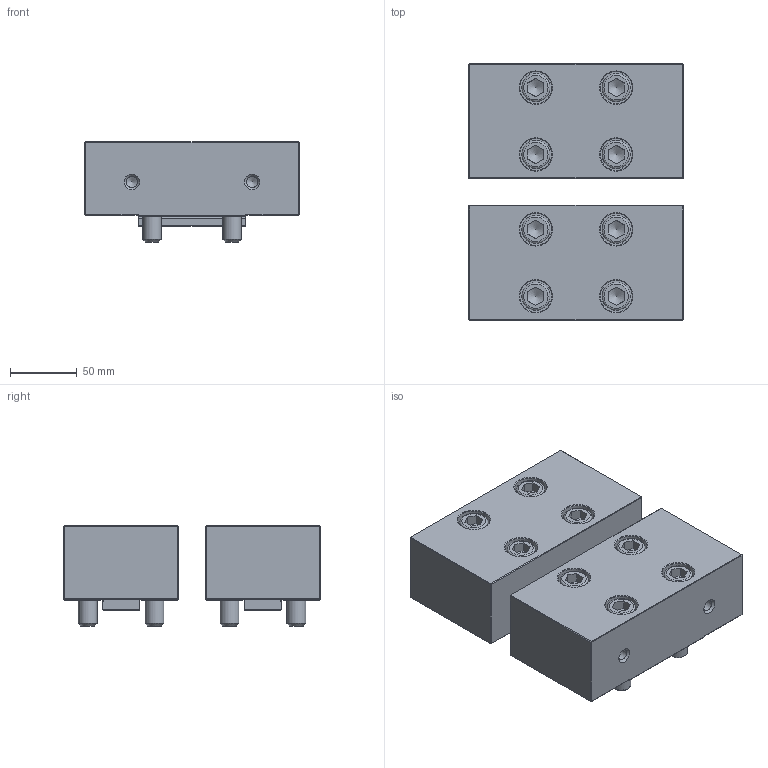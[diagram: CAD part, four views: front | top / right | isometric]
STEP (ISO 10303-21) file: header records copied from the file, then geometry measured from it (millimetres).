
FILE_DESCRIPTION(('STEP AP214'), '1');
FILE_NAME('BB.VS.160.22.040', '', ('UNSPECIFIED'), ('UNSPECIFIED'), 'C3D Converter', 'C3D Toolkit', '');
FILE_SCHEMA(('AUTOMOTIVE_DESIGN { 1 0 10303 214 3 1 1}'));
Length unit declared in the file: millimetre
Products named in the file (1): BB.VS.160.22.040 СБ
Bounding box: 160 x 192 x 75 mm (x, y, z)
Volume: 1524302.8 mm3; surface area: 174363.2 mm2
Topology: 2 solids, 2 shells, 300 faces, 664 edges, 400 vertices
Faces by surface type: plane 172, cone 64, cylinder 48, torus 16
Full cylindrical faces by diameter (mm): 4.917 x4, 8.376 x8, 14 x8, 16 x8, 21 x8, 24 x8
Entity records: 11777 total; most frequent: CARTESIAN_POINT 3369, DIRECTION 1222, ORIENTED_EDGE 1040, EDGE_CURVE 520, AXIS2_PLACEMENT_3D 457, EDGE_LOOP 456, VERTEX_POINT 380, LINE 308
